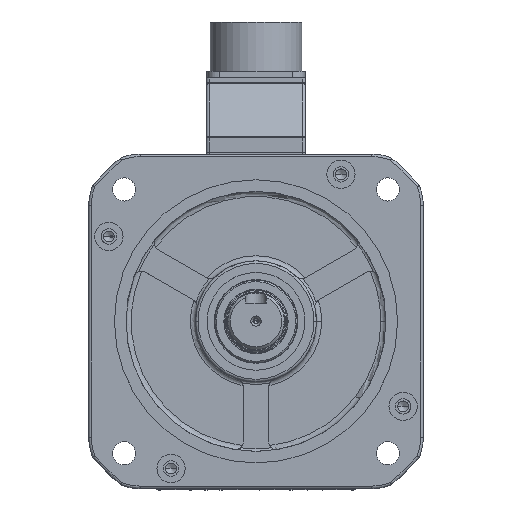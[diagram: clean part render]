
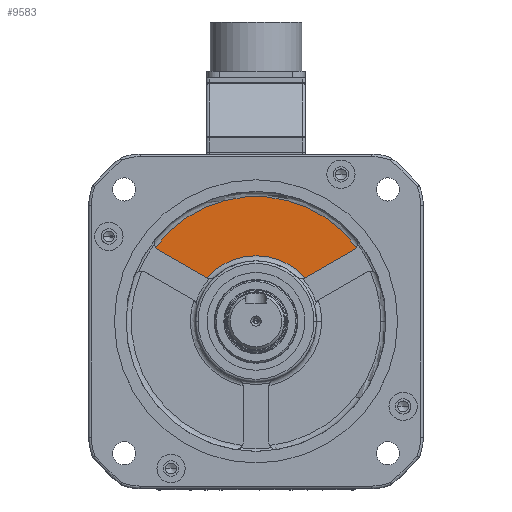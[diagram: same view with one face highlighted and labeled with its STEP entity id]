
A CAD part, top view. The second image highlights one B-rep face of the part: STEP entity #9583.
In plain terms, the highlighted planar face has unit normal (0, 0, 1).
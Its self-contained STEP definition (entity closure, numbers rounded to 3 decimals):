
#86 = CARTESIAN_POINT ( 'NONE',  ( 2.5, 4.33, 0.5 ) ) ;
#141 = DIRECTION ( 'NONE',  ( 1., 0., 0. ) ) ;
#576 = PLANE ( 'NONE',  #27036 ) ;
#2662 = CARTESIAN_POINT ( 'NONE',  ( -19.147, 16.841, 0.5 ) ) ;
#5421 = EDGE_CURVE ( 'NONE', #39930, #67247, #82757, .T. ) ;
#5725 = EDGE_CURVE ( 'NONE', #37797, #17514, #63836, .T. ) ;
#6068 = DIRECTION ( 'NONE',  ( 1., 0., 0. ) ) ;
#8453 = DIRECTION ( 'NONE',  ( 1., 0., 0. ) ) ;
#9583 = ADVANCED_FACE ( 'NONE', ( #25758 ), #576, .T. ) ;
#10075 = CARTESIAN_POINT ( 'NONE',  ( 39.078, 28.726, 0.5 ) ) ;
#12696 = CARTESIAN_POINT ( 'NONE',  ( 0., 0., 0.5 ) ) ;
#13126 = LINE ( 'NONE', #86, #31135 ) ;
#15332 = LINE ( 'NONE', #40925, #74105 ) ;
#17514 = VERTEX_POINT ( 'NONE', #73734 ) ;
#18622 = DIRECTION ( 'NONE',  ( 0., 0., 1. ) ) ;
#21201 = VERTEX_POINT ( 'NONE', #29146 ) ;
#21244 = CIRCLE ( 'NONE', #54783, 3. ) ;
#21256 = DIRECTION ( 'NONE',  ( 0.866, 0.5, 0. ) ) ;
#21876 = CIRCLE ( 'NONE', #31252, 48.5 ) ;
#22150 = ORIENTED_EDGE ( 'NONE', *, *, #66773, .T. ) ;
#22205 = DIRECTION ( 'NONE',  ( 1., 0., 0. ) ) ;
#23975 = ORIENTED_EDGE ( 'NONE', *, *, #5725, .T. ) ;
#25758 = FACE_OUTER_BOUND ( 'NONE', #44949, .T. ) ;
#26446 = AXIS2_PLACEMENT_3D ( 'NONE', #51836, #77442, #6068 ) ;
#27036 = AXIS2_PLACEMENT_3D ( 'NONE', #39622, #57650, #141 ) ;
#29146 = CARTESIAN_POINT ( 'NONE',  ( 38.049, 27.741, 0.5 ) ) ;
#31135 = VECTOR ( 'NONE', #71467, 1000. ) ;
#31252 = AXIS2_PLACEMENT_3D ( 'NONE', #51109, #44374, #69999 ) ;
#31312 = EDGE_CURVE ( 'NONE', #21201, #65847, #52258, .T. ) ;
#32948 = CARTESIAN_POINT ( 'NONE',  ( -39.078, 28.726, 0.5 ) ) ;
#34357 = CARTESIAN_POINT ( 'NONE',  ( -38.049, 27.741, 0.5 ) ) ;
#37797 = VERTEX_POINT ( 'NONE', #2662 ) ;
#38480 = EDGE_CURVE ( 'NONE', #41441, #21201, #15332, .T. ) ;
#39622 = CARTESIAN_POINT ( 'NONE',  ( 0., 0., 0.5 ) ) ;
#39930 = VERTEX_POINT ( 'NONE', #32948 ) ;
#40340 = CARTESIAN_POINT ( 'NONE',  ( 36.549, 30.339, 0.5 ) ) ;
#40925 = CARTESIAN_POINT ( 'NONE',  ( -2.5, 4.33, 0.5 ) ) ;
#41441 = VERTEX_POINT ( 'NONE', #47633 ) ;
#43136 = ORIENTED_EDGE ( 'NONE', *, *, #31312, .T. ) ;
#43207 = ORIENTED_EDGE ( 'NONE', *, *, #38480, .T. ) ;
#44374 = DIRECTION ( 'NONE',  ( 0., 0., 1. ) ) ;
#44949 = EDGE_LOOP ( 'NONE', ( #77424, #23975, #22150, #43207, #43136, #65870, #60041, #61610 ) ) ;
#46916 = AXIS2_PLACEMENT_3D ( 'NONE', #40340, #65957, #8453 ) ;
#47633 = CARTESIAN_POINT ( 'NONE',  ( 19.379, 16.962, 0.5 ) ) ;
#50192 = EDGE_CURVE ( 'NONE', #52775, #67247, #13126, .T. ) ;
#51026 = EDGE_CURVE ( 'NONE', #65847, #39930, #21876, .T. ) ;
#51109 = CARTESIAN_POINT ( 'NONE',  ( 0., 0., 0.5 ) ) ;
#51836 = CARTESIAN_POINT ( 'NONE',  ( -36.549, 30.339, 0.5 ) ) ;
#52258 = CIRCLE ( 'NONE', #46916, 3. ) ;
#52775 = VERTEX_POINT ( 'NONE', #64730 ) ;
#54783 = AXIS2_PLACEMENT_3D ( 'NONE', #73808, #80942, #22205 ) ;
#57650 = DIRECTION ( 'NONE',  ( 0., 0., 1. ) ) ;
#57653 = EDGE_CURVE ( 'NONE', #52775, #37797, #21244, .T. ) ;
#60041 = ORIENTED_EDGE ( 'NONE', *, *, #5421, .T. ) ;
#61069 = CIRCLE ( 'NONE', #66460, 3. ) ;
#61610 = ORIENTED_EDGE ( 'NONE', *, *, #50192, .F. ) ;
#63542 = DIRECTION ( 'NONE',  ( 1., 0., 0. ) ) ;
#63836 = CIRCLE ( 'NONE', #75914, 25.5 ) ;
#64730 = CARTESIAN_POINT ( 'NONE',  ( -19.379, 16.962, 0.5 ) ) ;
#65847 = VERTEX_POINT ( 'NONE', #10075 ) ;
#65870 = ORIENTED_EDGE ( 'NONE', *, *, #51026, .T. ) ;
#65957 = DIRECTION ( 'NONE',  ( 0., 0., 1. ) ) ;
#66460 = AXIS2_PLACEMENT_3D ( 'NONE', #75727, #18622, #63542 ) ;
#66773 = EDGE_CURVE ( 'NONE', #17514, #41441, #61069, .T. ) ;
#67247 = VERTEX_POINT ( 'NONE', #34357 ) ;
#68961 = DIRECTION ( 'NONE',  ( 0., 0., -1. ) ) ;
#69999 = DIRECTION ( 'NONE',  ( 1., 0., 0. ) ) ;
#71467 = DIRECTION ( 'NONE',  ( -0.866, 0.5, 0. ) ) ;
#73734 = CARTESIAN_POINT ( 'NONE',  ( 19.147, 16.841, 0.5 ) ) ;
#73808 = CARTESIAN_POINT ( 'NONE',  ( -17.879, 19.56, 0.5 ) ) ;
#74105 = VECTOR ( 'NONE', #21256, 1000. ) ;
#75727 = CARTESIAN_POINT ( 'NONE',  ( 17.879, 19.56, 0.5 ) ) ;
#75914 = AXIS2_PLACEMENT_3D ( 'NONE', #12696, #68961, #82387 ) ;
#77424 = ORIENTED_EDGE ( 'NONE', *, *, #57653, .T. ) ;
#77442 = DIRECTION ( 'NONE',  ( 0., 0., 1. ) ) ;
#80942 = DIRECTION ( 'NONE',  ( 0., 0., 1. ) ) ;
#82387 = DIRECTION ( 'NONE',  ( 1., 0., 0. ) ) ;
#82757 = CIRCLE ( 'NONE', #26446, 3. ) ;
